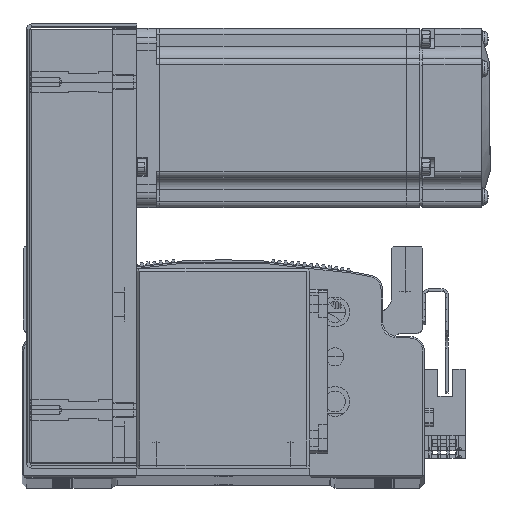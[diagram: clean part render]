
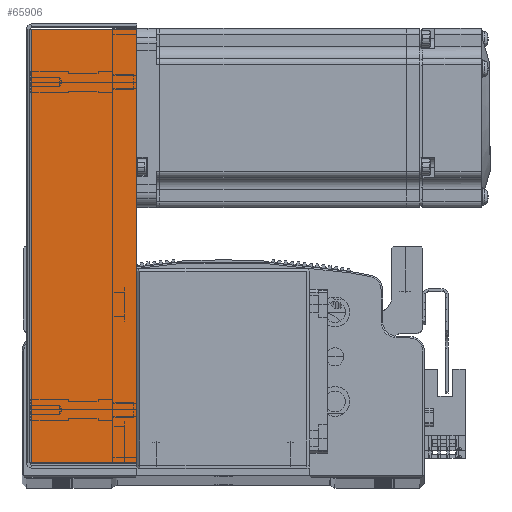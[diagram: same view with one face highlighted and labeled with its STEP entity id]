
A CAD part, top view. The second image highlights one B-rep face of the part: STEP entity #65906.
In plain terms, the highlighted planar face has unit normal (0, 0, 1).
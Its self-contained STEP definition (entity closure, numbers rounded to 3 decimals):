
#2143 = AXIS2_PLACEMENT_3D ( 'NONE', #83911, #83913, #83888 ) ;
#20989 = CARTESIAN_POINT ( 'NONE',  ( 72.793, 0., 34.5 ) ) ;
#21003 = CARTESIAN_POINT ( 'NONE',  ( -74.5, 0.737, 34.5 ) ) ;
#21004 = DIRECTION ( 'NONE',  ( 0., 1., 0. ) ) ;
#21005 = DIRECTION ( 'NONE',  ( -1., 0., 0. ) ) ;
#21028 = DIRECTION ( 'NONE',  ( 0., 1., 0. ) ) ;
#21066 = CARTESIAN_POINT ( 'NONE',  ( -72.793, 0., 34.5 ) ) ;
#21140 = CARTESIAN_POINT ( 'NONE',  ( 0., 36., 34.5 ) ) ;
#21192 = DIRECTION ( 'NONE',  ( -1., 0., 0. ) ) ;
#22997 = EDGE_CURVE ( 'NONE', #54504, #54309, #28878, .T. ) ;
#23000 = EDGE_CURVE ( 'NONE', #54504, #54358, #28888, .T. ) ;
#23015 = EDGE_CURVE ( 'NONE', #54358, #54491, #28928, .T. ) ;
#23049 = EDGE_CURVE ( 'NONE', #54309, #54491, #29011, .T. ) ;
#28878 = LINE ( 'NONE', #20989, #28882 ) ;
#28882 = VECTOR ( 'NONE', #21004, 1000. ) ;
#28888 = LINE ( 'NONE', #21003, #28889 ) ;
#28889 = VECTOR ( 'NONE', #21005, 1000. ) ;
#28928 = LINE ( 'NONE', #21066, #28967 ) ;
#28967 = VECTOR ( 'NONE', #21028, 1000. ) ;
#29011 = LINE ( 'NONE', #21140, #29037 ) ;
#29037 = VECTOR ( 'NONE', #21192, 1000. ) ;
#42939 = ORIENTED_EDGE ( 'NONE', *, *, #23000, .F. ) ;
#42947 = ORIENTED_EDGE ( 'NONE', *, *, #23015, .F. ) ;
#42986 = ORIENTED_EDGE ( 'NONE', *, *, #22997, .T. ) ;
#43002 = ORIENTED_EDGE ( 'NONE', *, *, #23049, .T. ) ;
#54309 = VERTEX_POINT ( 'NONE', #74543 ) ;
#54358 = VERTEX_POINT ( 'NONE', #74557 ) ;
#54491 = VERTEX_POINT ( 'NONE', #74535 ) ;
#54504 = VERTEX_POINT ( 'NONE', #74550 ) ;
#62386 = EDGE_LOOP ( 'NONE', ( #42939, #42986, #43002, #42947 ) ) ;
#65906 = ADVANCED_FACE ( 'NONE', ( #81551 ), #83908, .F. ) ;
#74535 = CARTESIAN_POINT ( 'NONE',  ( -72.793, 36., 34.5 ) ) ;
#74543 = CARTESIAN_POINT ( 'NONE',  ( 72.793, 36., 34.5 ) ) ;
#74550 = CARTESIAN_POINT ( 'NONE',  ( 72.793, 0.737, 34.5 ) ) ;
#74557 = CARTESIAN_POINT ( 'NONE',  ( -72.793, 0.737, 34.5 ) ) ;
#81551 = FACE_OUTER_BOUND ( 'NONE', #62386, .T. ) ;
#83888 = DIRECTION ( 'NONE',  ( -1., 0., 0. ) ) ;
#83908 = PLANE ( 'NONE',  #2143 ) ;
#83911 = CARTESIAN_POINT ( 'NONE',  ( 0., 0., 34.5 ) ) ;
#83913 = DIRECTION ( 'NONE',  ( 0., 0., -1. ) ) ;
